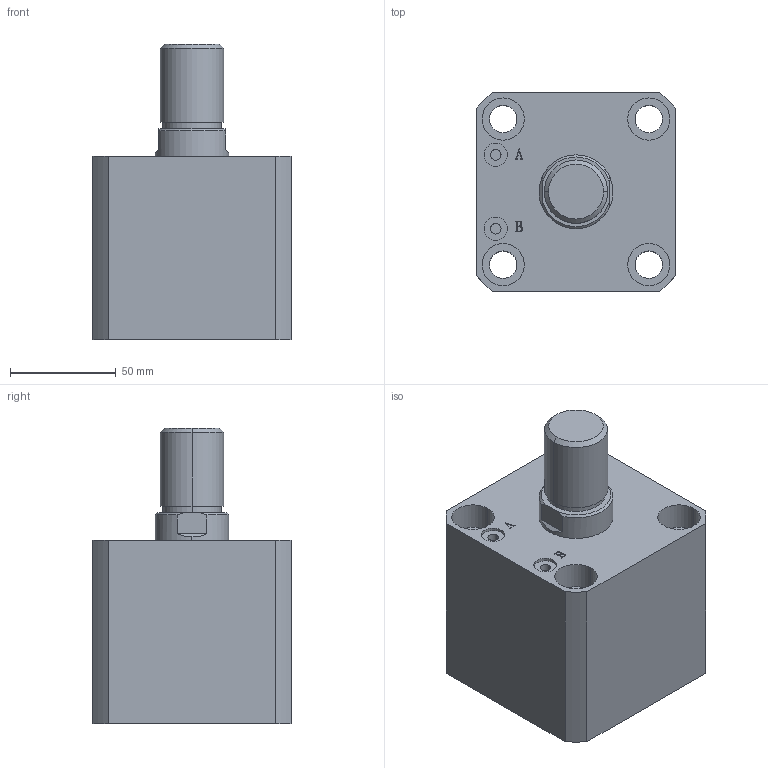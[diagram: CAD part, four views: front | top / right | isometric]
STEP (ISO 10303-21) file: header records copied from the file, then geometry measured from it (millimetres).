
FILE_DESCRIPTION (( 'STEP AP203' ), '1' );
FILE_NAME ('HTB-SDMA63-20W.STEP', '2019-10-08T01:02:20', ( '微软用户' ), ( '微软中国' ), 'SwSTEP 2.0', 'SolidWorks 2012', '' );
FILE_SCHEMA (( 'CONFIG_CONTROL_DESIGN' ));
Length unit declared in the file: millimetre
Products named in the file (3): HTB-SDMA63-20W; HTB-SDMA63-20W活塞杆; HTB-SDMA63-20掛极
Assembly tree (2 placements, depth 2):
  HTB-SDMA63-20W
    HTB-SDMA63-20掛极
    HTB-SDMA63-20W活塞杆
Bounding box: 94 x 94 x 140 mm (x, y, z)
Volume: 690596.7 mm3; surface area: 100945.3 mm2
Topology: 2 solids, 2 shells, 141 faces, 337 edges, 222 vertices
Faces by surface type: plane 67, cylinder 48, bspline 16, torus 6, cone 4
Entity records: 5176 total; most frequent: CARTESIAN_POINT 1593, ORIENTED_EDGE 674, DIRECTION 669, EDGE_CURVE 337, AXIS2_PLACEMENT_3D 242, VERTEX_POINT 222, LINE 185, VECTOR 185
